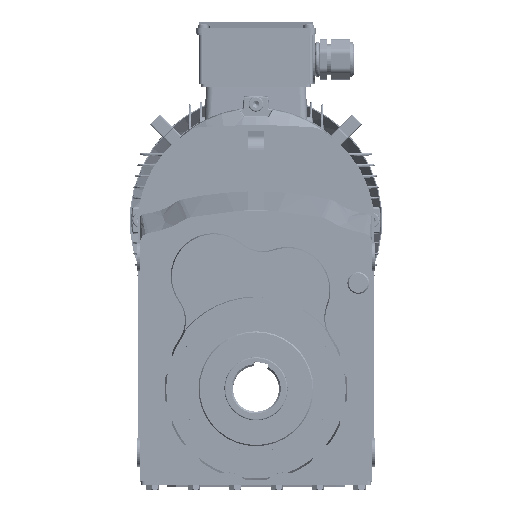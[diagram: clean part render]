
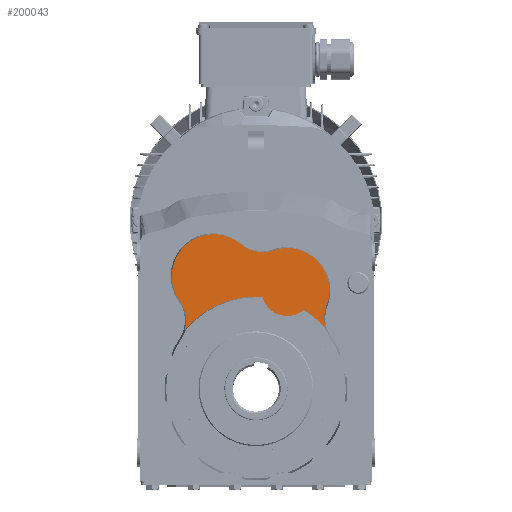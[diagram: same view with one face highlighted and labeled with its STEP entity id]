
A CAD part, top view. The second image highlights one B-rep face of the part: STEP entity #200043.
In plain terms, the highlighted planar face has unit normal (0, 0, 1).
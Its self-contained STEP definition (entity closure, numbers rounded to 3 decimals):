
#6404 = VERTEX_POINT ( 'NONE', #66346 ) ;
#6496 = VERTEX_POINT ( 'NONE', #90502 ) ;
#6515 = VERTEX_POINT ( 'NONE', #90560 ) ;
#6546 = VERTEX_POINT ( 'NONE', #90888 ) ;
#6662 = VERTEX_POINT ( 'NONE', #105887 ) ;
#6711 = VERTEX_POINT ( 'NONE', #106434 ) ;
#12214 = PLANE ( 'NONE',  #128962 ) ;
#12260 = CARTESIAN_POINT ( 'NONE',  ( 16.596, 117.023, -6. ) ) ;
#12284 = DIRECTION ( 'NONE',  ( 0., 0., 1. ) ) ;
#12300 = DIRECTION ( 'NONE',  ( 1., 0., 0. ) ) ;
#16850 = CIRCLE ( 'NONE', #129351, 80.207 ) ;
#50378 = CARTESIAN_POINT ( 'NONE',  ( -12.995, 125.832, -6. ) ) ;
#50912 = CARTESIAN_POINT ( 'NONE',  ( 61.326, 72.397, -6. ) ) ;
#50933 = CARTESIAN_POINT ( 'NONE',  ( 60.84, 52.266, -6. ) ) ;
#50937 = CARTESIAN_POINT ( 'NONE',  ( 41.673, 68.531, -6. ) ) ;
#51023 = CARTESIAN_POINT ( 'NONE',  ( 5.479, 80.02, -6. ) ) ;
#54183 = DIRECTION ( 'NONE',  ( 0., 1., 0. ) ) ;
#54261 = CARTESIAN_POINT ( 'NONE',  ( 0., 0., -6. ) ) ;
#54273 = DIRECTION ( 'NONE',  ( 0., 0., 1. ) ) ;
#66346 = CARTESIAN_POINT ( 'NONE',  ( 15.426, 120.46, -6. ) ) ;
#90502 = CARTESIAN_POINT ( 'NONE',  ( -62.177, 50.667, -6. ) ) ;
#90560 = CARTESIAN_POINT ( 'NONE',  ( -73.271, 97.856, -6. ) ) ;
#90888 = CARTESIAN_POINT ( 'NONE',  ( 0., 80.207, -6. ) ) ;
#105887 = CARTESIAN_POINT ( 'NONE',  ( 27.229, 122.413, -6. ) ) ;
#106434 = CARTESIAN_POINT ( 'NONE',  ( -66.387, 76.479, -6. ) ) ;
#126060 = AXIS2_PLACEMENT_3D ( 'NONE', #201883, #201869, #201887 ) ;
#126130 = AXIS2_PLACEMENT_3D ( 'NONE', #201976, #201952, #201964 ) ;
#126209 = AXIS2_PLACEMENT_3D ( 'NONE', #201897, #201857, #201871 ) ;
#128962 = AXIS2_PLACEMENT_3D ( 'NONE', #12260, #12284, #12300 ) ;
#129351 = AXIS2_PLACEMENT_3D ( 'NONE', #54261, #54273, #54183 ) ;
#129571 = AXIS2_PLACEMENT_3D ( 'NONE', #140648, #140741, #140670 ) ;
#129628 = AXIS2_PLACEMENT_3D ( 'NONE', #140631, #140754, #140623 ) ;
#130261 = AXIS2_PLACEMENT_3D ( 'NONE', #182963, #182973, #182975 ) ;
#130288 = AXIS2_PLACEMENT_3D ( 'NONE', #182984, #183007, #183032 ) ;
#130327 = AXIS2_PLACEMENT_3D ( 'NONE', #183041, #183072, #183029 ) ;
#130336 = AXIS2_PLACEMENT_3D ( 'NONE', #183052, #183027, #183062 ) ;
#139348 = EDGE_CURVE ( 'NONE', #6404, #148302, #257261, .T. ) ;
#140623 = DIRECTION ( 'NONE',  ( 0., 1., 0. ) ) ;
#140631 = CARTESIAN_POINT ( 'NONE',  ( 27.229, 85.782, -6. ) ) ;
#140648 = CARTESIAN_POINT ( 'NONE',  ( -36.64, 97.856, -6. ) ) ;
#140670 = DIRECTION ( 'NONE',  ( -1., 0., 0. ) ) ;
#140741 = DIRECTION ( 'NONE',  ( 0., 0., 1. ) ) ;
#140754 = DIRECTION ( 'NONE',  ( 0., 0., 1. ) ) ;
#143307 = CIRCLE ( 'NONE', #129628, 36.631 ) ;
#143658 = CIRCLE ( 'NONE', #129571, 36.631 ) ;
#145648 = CIRCLE ( 'NONE', #130336, 29.369 ) ;
#145678 = CIRCLE ( 'NONE', #130261, 80.207 ) ;
#145706 = CIRCLE ( 'NONE', #130327, 29.369 ) ;
#145718 = CIRCLE ( 'NONE', #130288, 80.207 ) ;
#148302 = VERTEX_POINT ( 'NONE', #50378 ) ;
#148714 = VERTEX_POINT ( 'NONE', #50937 ) ;
#148722 = VERTEX_POINT ( 'NONE', #51023 ) ;
#148818 = VERTEX_POINT ( 'NONE', #50912 ) ;
#148835 = VERTEX_POINT ( 'NONE', #50933 ) ;
#151422 = ORIENTED_EDGE ( 'NONE', *, *, #208308, .F. ) ;
#151426 = ORIENTED_EDGE ( 'NONE', *, *, #172686, .T. ) ;
#151438 = ORIENTED_EDGE ( 'NONE', *, *, #167248, .T. ) ;
#151440 = ORIENTED_EDGE ( 'NONE', *, *, #172685, .T. ) ;
#151441 = ORIENTED_EDGE ( 'NONE', *, *, #161425, .T. ) ;
#151449 = ORIENTED_EDGE ( 'NONE', *, *, #167251, .F. ) ;
#151456 = ORIENTED_EDGE ( 'NONE', *, *, #167232, .T. ) ;
#151466 = ORIENTED_EDGE ( 'NONE', *, *, #172723, .T. ) ;
#151467 = ORIENTED_EDGE ( 'NONE', *, *, #167225, .F. ) ;
#151475 = ORIENTED_EDGE ( 'NONE', *, *, #161449, .T. ) ;
#151481 = ORIENTED_EDGE ( 'NONE', *, *, #139348, .T. ) ;
#161425 = EDGE_CURVE ( 'NONE', #6662, #6404, #143307, .T. ) ;
#161449 = EDGE_CURVE ( 'NONE', #6515, #6711, #143658, .T. ) ;
#167225 = EDGE_CURVE ( 'NONE', #148835, #148714, #145678, .T. ) ;
#167232 = EDGE_CURVE ( 'NONE', #148835, #148818, #145648, .T. ) ;
#167248 = EDGE_CURVE ( 'NONE', #6711, #6496, #145706, .T. ) ;
#167251 = EDGE_CURVE ( 'NONE', #148722, #6546, #145718, .T. ) ;
#172685 = EDGE_CURVE ( 'NONE', #148818, #6662, #191345, .T. ) ;
#172686 = EDGE_CURVE ( 'NONE', #148722, #148714, #191386, .T. ) ;
#172723 = EDGE_CURVE ( 'NONE', #148302, #6515, #191446, .T. ) ;
#179759 = AXIS2_PLACEMENT_3D ( 'NONE', #265195, #265040, #265081 ) ;
#182963 = CARTESIAN_POINT ( 'NONE',  ( 0., 0., -6. ) ) ;
#182973 = DIRECTION ( 'NONE',  ( 0., 0., 1. ) ) ;
#182975 = DIRECTION ( 'NONE',  ( -1., 0., 0. ) ) ;
#182984 = CARTESIAN_POINT ( 'NONE',  ( 0., 0., -6. ) ) ;
#183007 = DIRECTION ( 'NONE',  ( 0., 0., 1. ) ) ;
#183027 = DIRECTION ( 'NONE',  ( 0., 0., -1. ) ) ;
#183029 = DIRECTION ( 'NONE',  ( 0., -1., 0. ) ) ;
#183032 = DIRECTION ( 'NONE',  ( 0., 1., 0. ) ) ;
#183041 = CARTESIAN_POINT ( 'NONE',  ( -90.237, 59.341, -6. ) ) ;
#183052 = CARTESIAN_POINT ( 'NONE',  ( 88.664, 61.665, -6. ) ) ;
#183062 = DIRECTION ( 'NONE',  ( 1., 0., 0. ) ) ;
#183072 = DIRECTION ( 'NONE',  ( 0., 0., -1. ) ) ;
#191345 = CIRCLE ( 'NONE', #126209, 36.631 ) ;
#191386 = CIRCLE ( 'NONE', #126060, 22.5 ) ;
#191446 = CIRCLE ( 'NONE', #126130, 36.631 ) ;
#200043 = ADVANCED_FACE ( 'NONE', ( #263782 ), #12214, .T. ) ;
#201857 = DIRECTION ( 'NONE',  ( 0., 0., 1. ) ) ;
#201869 = DIRECTION ( 'NONE',  ( 0., 0., 1. ) ) ;
#201871 = DIRECTION ( 'NONE',  ( 0., 1., 0. ) ) ;
#201883 = CARTESIAN_POINT ( 'NONE',  ( 27.229, 85.782, -6. ) ) ;
#201887 = DIRECTION ( 'NONE',  ( -1., 0., 0. ) ) ;
#201897 = CARTESIAN_POINT ( 'NONE',  ( 27.229, 85.782, -6. ) ) ;
#201952 = DIRECTION ( 'NONE',  ( 0., 0., 1. ) ) ;
#201964 = DIRECTION ( 'NONE',  ( -1., 0., 0. ) ) ;
#201976 = CARTESIAN_POINT ( 'NONE',  ( -36.64, 97.856, -6. ) ) ;
#208308 = EDGE_CURVE ( 'NONE', #6546, #6496, #16850, .T. ) ;
#245256 = EDGE_LOOP ( 'NONE', ( #151438, #151422, #151449, #151426, #151467, #151456, #151440, #151441, #151481, #151466, #151475 ) ) ;
#257261 = CIRCLE ( 'NONE', #179759, 29.369 ) ;
#263782 = FACE_OUTER_BOUND ( 'NONE', #245256, .T. ) ;
#265040 = DIRECTION ( 'NONE',  ( 0., 0., -1. ) ) ;
#265081 = DIRECTION ( 'NONE',  ( 1., 0., 0. ) ) ;
#265195 = CARTESIAN_POINT ( 'NONE',  ( 5.964, 148.263, -6. ) ) ;
